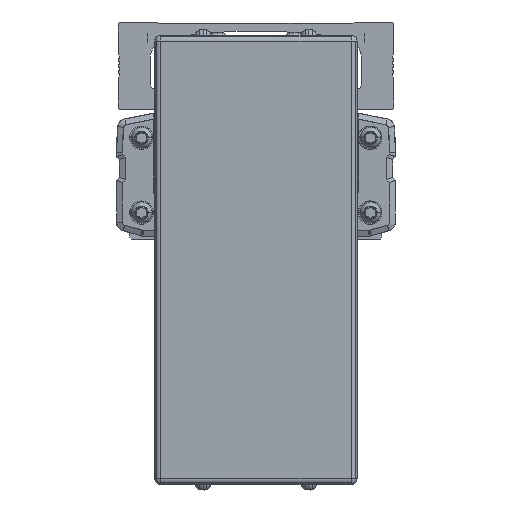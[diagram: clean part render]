
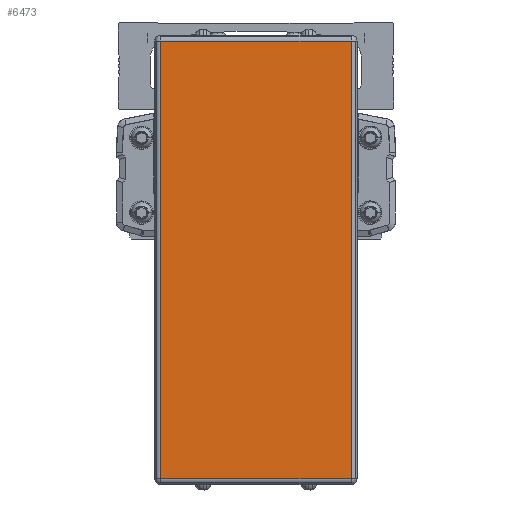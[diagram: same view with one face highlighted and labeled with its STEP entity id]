
A CAD part, front view. The second image highlights one B-rep face of the part: STEP entity #6473.
In plain terms, the highlighted planar face has unit normal (0, -1, 0).
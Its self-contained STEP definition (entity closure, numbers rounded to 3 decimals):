
#6473=ADVANCED_FACE('',(#13126),#13127,.T.);
#13126=FACE_OUTER_BOUND('',#21333,.T.);
#13127=PLANE('',#21334);
#21333=EDGE_LOOP('',(#40504,#40505,#40506,#40507));
#21334=AXIS2_PLACEMENT_3D('',#40508,#40509,#40510);
#40504=ORIENTED_EDGE('',*,*,#46450,.F.);
#40505=ORIENTED_EDGE('',*,*,#43258,.F.);
#40506=ORIENTED_EDGE('',*,*,#43616,.F.);
#40507=ORIENTED_EDGE('',*,*,#48742,.F.);
#40508=CARTESIAN_POINT('',(0.,-339.778,-50.1));
#40509=DIRECTION('',(0.0,-1.0,0.));
#40510=DIRECTION('',(1.0,0.0,0.0));
#43258=EDGE_CURVE('',#52415,#52417,#52418,.T.);
#43616=EDGE_CURVE('',#52993,#52415,#52995,.T.);
#46450=EDGE_CURVE('',#52417,#51583,#57188,.T.);
#48742=EDGE_CURVE('',#51583,#52993,#60015,.T.);
#51583=VERTEX_POINT('',#63869);
#52415=VERTEX_POINT('',#65119);
#52417=VERTEX_POINT('',#65121);
#52418=LINE('',#65122,#65123);
#52993=VERTEX_POINT('',#65991);
#52995=LINE('',#65993,#65994);
#57188=LINE('',#72387,#72388);
#60015=LINE('',#76821,#76822);
#63869=CARTESIAN_POINT('',(32.5,-339.778,-124.7));
#65119=CARTESIAN_POINT('',(-32.5,-339.778,24.5));
#65121=CARTESIAN_POINT('',(32.5,-339.778,24.5));
#65122=CARTESIAN_POINT('',(0.,-339.778,24.5));
#65123=VECTOR('',#79702,10.0);
#65991=CARTESIAN_POINT('',(-32.5,-339.778,-124.7));
#65993=CARTESIAN_POINT('',(-32.5,-339.778,-50.1));
#65994=VECTOR('',#80143,10.0);
#72387=CARTESIAN_POINT('',(32.5,-339.778,-50.1));
#72388=VECTOR('',#83535,10.0);
#76821=CARTESIAN_POINT('',(0.,-339.778,-124.7));
#76822=VECTOR('',#85684,10.0);
#79702=DIRECTION('',(1.0,0.0,0.0));
#80143=DIRECTION('',(0.0,0.,1.0));
#83535=DIRECTION('',(0.0,0.,-1.0));
#85684=DIRECTION('',(-1.0,0.0,0.0));
